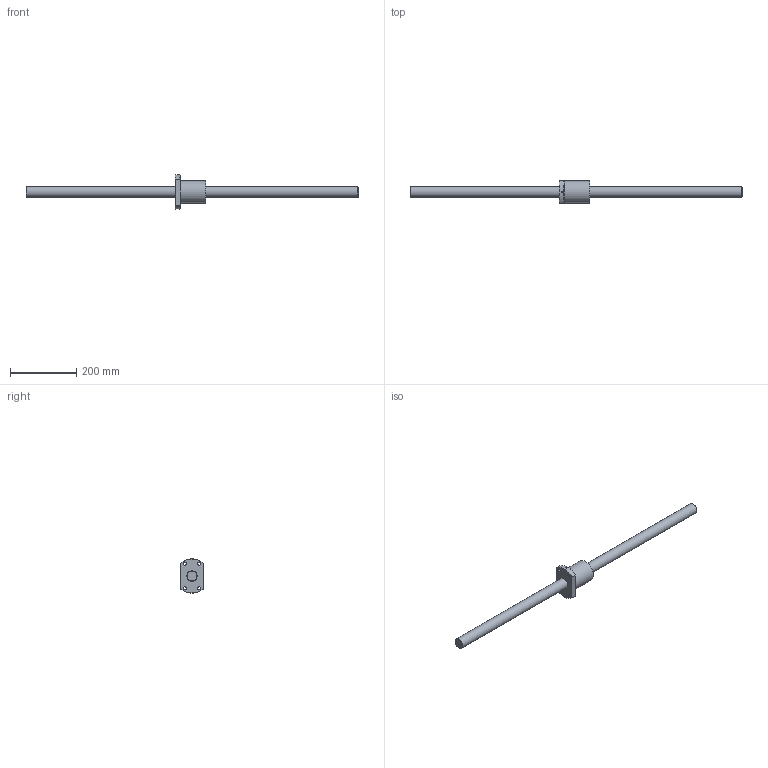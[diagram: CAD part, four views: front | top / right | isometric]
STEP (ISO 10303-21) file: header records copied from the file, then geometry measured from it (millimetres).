
FILE_DESCRIPTION((''),'2;1');
FILE_NAME('D:\製品 (図面)\カタログ用3D\ネジ関連\STEP形式\RBSMA\RBSMA3210-1000.stp','2010-06-02T14:45:35',('Tsuchiya'),(''),'Autodesk Inventor 10','Autodesk Inventor 10','');
FILE_SCHEMA(('AUTOMOTIVE_DESIGN { 1 0 10303 214 1 1 1 1 }'));
Length unit declared in the file: millimetre
Products named in the file (3): RBSMA3210-1000; RBSMA3210-10001; RBSMA3210-10002
Assembly tree (2 placements, depth 2):
  RBSMA3210-1000
    RBSMA3210-10001
    RBSMA3210-10002
Bounding box: 1000 x 67 x 102.84 mm (x, y, z)
Volume: 1092741.9 mm3; surface area: 144707.5 mm2
Topology: 2 solids, 2 shells, 25 faces, 63 edges, 42 vertices
Faces by surface type: cylinder 9, plane 8, cone 7, bspline 1
Full cylindrical faces by diameter (mm): 9 x4, 32 x2, 67 x1
Entity records: 888 total; most frequent: CARTESIAN_POINT 273, DIRECTION 120, ORIENTED_EDGE 94, AXIS2_PLACEMENT_3D 55, EDGE_LOOP 48, EDGE_CURVE 47, VERTEX_POINT 37, CIRCLE 26
